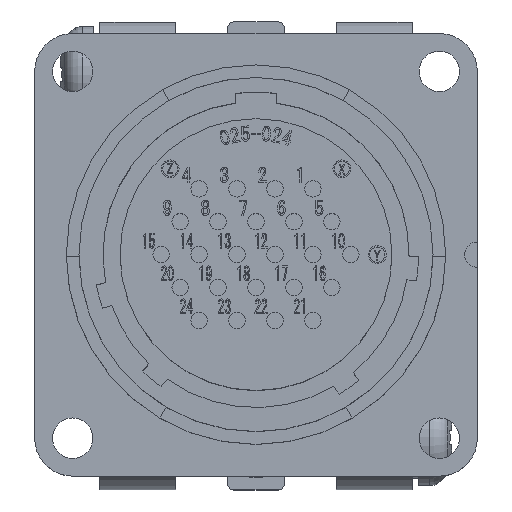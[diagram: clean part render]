
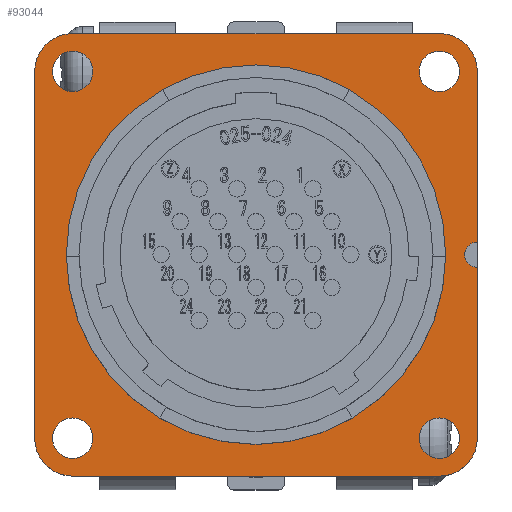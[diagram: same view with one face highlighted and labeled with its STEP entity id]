
A CAD part, top view. The second image highlights one B-rep face of the part: STEP entity #93044.
In plain terms, the highlighted planar face has unit normal (0, 0, 1).
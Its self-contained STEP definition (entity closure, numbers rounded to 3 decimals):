
#1880 = AXIS2_PLACEMENT_3D ( 'NONE', #86083, #49757, #78142 ) ;
#2203 = EDGE_CURVE ( 'NONE', #8988, #8988, #72330, .T. ) ;
#3121 = VERTEX_POINT ( 'NONE', #53885 ) ;
#3390 = FACE_BOUND ( 'NONE', #21571, .T. ) ;
#3608 = CARTESIAN_POINT ( 'NONE',  ( -14.5, -14.5, -10.5 ) ) ;
#4801 = DIRECTION ( 'NONE',  ( -1., 0., 0. ) ) ;
#4927 = VECTOR ( 'NONE', #48506, 1000. ) ;
#5830 = EDGE_LOOP ( 'NONE', ( #72781 ) ) ;
#6068 = LINE ( 'NONE', #47575, #4927 ) ;
#6578 = DIRECTION ( 'NONE',  ( 0., 0., -1. ) ) ;
#7203 = DIRECTION ( 'NONE',  ( -1., 0., 0. ) ) ;
#8360 = DIRECTION ( 'NONE',  ( 0., 0., -1. ) ) ;
#8988 = VERTEX_POINT ( 'NONE', #11586 ) ;
#9372 = ORIENTED_EDGE ( 'NONE', *, *, #41807, .F. ) ;
#10202 = DIRECTION ( 'NONE',  ( 0., -1., 0. ) ) ;
#10491 = CIRCLE ( 'NONE', #43228, 3. ) ;
#10969 = AXIS2_PLACEMENT_3D ( 'NONE', #3608, #24751, #10202 ) ;
#11018 = ORIENTED_EDGE ( 'NONE', *, *, #58328, .T. ) ;
#11586 = CARTESIAN_POINT ( 'NONE',  ( -15., 0., -10.5 ) ) ;
#12129 = DIRECTION ( 'NONE',  ( -1., 0., 0. ) ) ;
#12219 = VERTEX_POINT ( 'NONE', #86877 ) ;
#13868 = CIRCLE ( 'NONE', #18438, 1. ) ;
#14870 = DIRECTION ( 'NONE',  ( 0., 0., 1. ) ) ;
#16818 = EDGE_CURVE ( 'NONE', #41565, #17228, #29871, .T. ) ;
#17228 = VERTEX_POINT ( 'NONE', #54913 ) ;
#18438 = AXIS2_PLACEMENT_3D ( 'NONE', #70722, #14870, #44555 ) ;
#19000 = CARTESIAN_POINT ( 'NONE',  ( 14.5, -14.5, -10.5 ) ) ;
#19147 = DIRECTION ( 'NONE',  ( 0., -1., 0. ) ) ;
#19307 = ORIENTED_EDGE ( 'NONE', *, *, #59739, .T. ) ;
#20061 = VERTEX_POINT ( 'NONE', #82941 ) ;
#20276 = VERTEX_POINT ( 'NONE', #37928 ) ;
#21489 = EDGE_CURVE ( 'NONE', #48937, #12219, #53069, .T. ) ;
#21571 = EDGE_LOOP ( 'NONE', ( #19307 ) ) ;
#23747 = EDGE_LOOP ( 'NONE', ( #49933 ) ) ;
#24751 = DIRECTION ( 'NONE',  ( 0., 0., -1. ) ) ;
#25027 = ORIENTED_EDGE ( 'NONE', *, *, #16818, .T. ) ;
#27236 = CIRCLE ( 'NONE', #36436, 1.6 ) ;
#28119 = ORIENTED_EDGE ( 'NONE', *, *, #21489, .F. ) ;
#29455 = DIRECTION ( 'NONE',  ( 0., -1., 0. ) ) ;
#29789 = ORIENTED_EDGE ( 'NONE', *, *, #77431, .T. ) ;
#29871 = CIRCLE ( 'NONE', #35959, 3. ) ;
#30221 = AXIS2_PLACEMENT_3D ( 'NONE', #51061, #8360, #72192 ) ;
#31318 = CARTESIAN_POINT ( 'NONE',  ( -17.5, -14.5, -10.5 ) ) ;
#31497 = ORIENTED_EDGE ( 'NONE', *, *, #43483, .F. ) ;
#31940 = CIRCLE ( 'NONE', #1880, 1.6 ) ;
#35281 = LINE ( 'NONE', #40476, #87320 ) ;
#35959 = AXIS2_PLACEMENT_3D ( 'NONE', #48994, #54712, #4801 ) ;
#35991 = CARTESIAN_POINT ( 'NONE',  ( -14.5, 14.5, -10.5 ) ) ;
#36435 = CARTESIAN_POINT ( 'NONE',  ( -14.5, -17.5, -10.5 ) ) ;
#36436 = AXIS2_PLACEMENT_3D ( 'NONE', #19000, #40746, #91317 ) ;
#37121 = AXIS2_PLACEMENT_3D ( 'NONE', #35991, #78602, #7203 ) ;
#37331 = LINE ( 'NONE', #58515, #38425 ) ;
#37928 = CARTESIAN_POINT ( 'NONE',  ( -14.5, 17.5, -10.5 ) ) ;
#38335 = ORIENTED_EDGE ( 'NONE', *, *, #92952, .T. ) ;
#38425 = VECTOR ( 'NONE', #65439, 1000. ) ;
#38785 = EDGE_CURVE ( 'NONE', #67036, #17228, #61647, .T. ) ;
#40165 = AXIS2_PLACEMENT_3D ( 'NONE', #42910, #6578, #85908 ) ;
#40179 = CARTESIAN_POINT ( 'NONE',  ( -17.5, 14.5, -10.5 ) ) ;
#40476 = CARTESIAN_POINT ( 'NONE',  ( 0., -17.5, -10.5 ) ) ;
#40746 = DIRECTION ( 'NONE',  ( 0., 0., -1. ) ) ;
#41565 = VERTEX_POINT ( 'NONE', #49341 ) ;
#41807 = EDGE_CURVE ( 'NONE', #12219, #81452, #6068, .T. ) ;
#42812 = CARTESIAN_POINT ( 'NONE',  ( -14.5, -14.5, -10.5 ) ) ;
#42910 = CARTESIAN_POINT ( 'NONE',  ( 14.5, 14.5, -10.5 ) ) ;
#43228 = AXIS2_PLACEMENT_3D ( 'NONE', #42812, #93374, #55816 ) ;
#43483 = EDGE_CURVE ( 'NONE', #41565, #55655, #35281, .T. ) ;
#44067 = FACE_BOUND ( 'NONE', #90132, .T. ) ;
#44188 = FACE_OUTER_BOUND ( 'NONE', #67353, .T. ) ;
#44555 = DIRECTION ( 'NONE',  ( 1., 0., 0. ) ) ;
#45406 = CARTESIAN_POINT ( 'NONE',  ( 14.5, 16.1, -10.5 ) ) ;
#46176 = CIRCLE ( 'NONE', #37121, 3. ) ;
#46441 = FACE_BOUND ( 'NONE', #23747, .T. ) ;
#47558 = DIRECTION ( 'NONE',  ( 0., 0., -1. ) ) ;
#47575 = CARTESIAN_POINT ( 'NONE',  ( 17.5, 0., -10.5 ) ) ;
#47862 = CARTESIAN_POINT ( 'NONE',  ( 0., 0., -10.5 ) ) ;
#48506 = DIRECTION ( 'NONE',  ( 0., -1., 0. ) ) ;
#48700 = CIRCLE ( 'NONE', #10969, 1.6 ) ;
#48855 = AXIS2_PLACEMENT_3D ( 'NONE', #47862, #49102, #12129 ) ;
#48926 = EDGE_CURVE ( 'NONE', #81452, #67036, #13868, .T. ) ;
#48937 = VERTEX_POINT ( 'NONE', #62906 ) ;
#48994 = CARTESIAN_POINT ( 'NONE',  ( 14.5, -14.5, -10.5 ) ) ;
#49102 = DIRECTION ( 'NONE',  ( 0., 0., -1. ) ) ;
#49341 = CARTESIAN_POINT ( 'NONE',  ( 14.5, -17.5, -10.5 ) ) ;
#49757 = DIRECTION ( 'NONE',  ( 0., 0., -1. ) ) ;
#49933 = ORIENTED_EDGE ( 'NONE', *, *, #2203, .T. ) ;
#51061 = CARTESIAN_POINT ( 'NONE',  ( 14.5, 14.5, -10.5 ) ) ;
#51475 = VECTOR ( 'NONE', #70570, 1000. ) ;
#51675 = ORIENTED_EDGE ( 'NONE', *, *, #48926, .F. ) ;
#53069 = CIRCLE ( 'NONE', #30221, 3. ) ;
#53885 = CARTESIAN_POINT ( 'NONE',  ( -16.1, 14.5, -10.5 ) ) ;
#54712 = DIRECTION ( 'NONE',  ( 0., 0., 1. ) ) ;
#54913 = CARTESIAN_POINT ( 'NONE',  ( 17.5, -14.5, -10.5 ) ) ;
#55655 = VERTEX_POINT ( 'NONE', #36435 ) ;
#55816 = DIRECTION ( 'NONE',  ( -1., 0., 0. ) ) ;
#56101 = CARTESIAN_POINT ( 'NONE',  ( -17.5, 0., -10.5 ) ) ;
#57299 = EDGE_CURVE ( 'NONE', #61963, #65467, #72879, .T. ) ;
#58328 = EDGE_CURVE ( 'NONE', #20276, #65467, #46176, .T. ) ;
#58515 = CARTESIAN_POINT ( 'NONE',  ( 0., 17.5, -10.5 ) ) ;
#59158 = ORIENTED_EDGE ( 'NONE', *, *, #38785, .F. ) ;
#59739 = EDGE_CURVE ( 'NONE', #61931, #61931, #84435, .T. ) ;
#61647 = LINE ( 'NONE', #85695, #76282 ) ;
#61778 = CARTESIAN_POINT ( 'NONE',  ( -14.5, -16.1, -10.5 ) ) ;
#61931 = VERTEX_POINT ( 'NONE', #45406 ) ;
#61963 = VERTEX_POINT ( 'NONE', #31318 ) ;
#62906 = CARTESIAN_POINT ( 'NONE',  ( 14.5, 17.5, -10.5 ) ) ;
#64315 = EDGE_LOOP ( 'NONE', ( #38335 ) ) ;
#65439 = DIRECTION ( 'NONE',  ( 1., 0., 0. ) ) ;
#65467 = VERTEX_POINT ( 'NONE', #40179 ) ;
#66532 = CARTESIAN_POINT ( 'NONE',  ( 17.5, -1., -10.5 ) ) ;
#66837 = ORIENTED_EDGE ( 'NONE', *, *, #81375, .F. ) ;
#67036 = VERTEX_POINT ( 'NONE', #66532 ) ;
#67353 = EDGE_LOOP ( 'NONE', ( #59158, #51675, #9372, #28119, #66837, #11018, #74041, #29789, #31497, #25027 ) ) ;
#68896 = DIRECTION ( 'NONE',  ( -1., 0., 0. ) ) ;
#68998 = PLANE ( 'NONE',  #92776 ) ;
#70570 = DIRECTION ( 'NONE',  ( 0., 1., 0. ) ) ;
#70722 = CARTESIAN_POINT ( 'NONE',  ( 17.5, 0., -10.5 ) ) ;
#72192 = DIRECTION ( 'NONE',  ( -1., 0., 0. ) ) ;
#72330 = CIRCLE ( 'NONE', #48855, 15. ) ;
#72781 = ORIENTED_EDGE ( 'NONE', *, *, #91659, .T. ) ;
#72879 = LINE ( 'NONE', #56101, #51475 ) ;
#73927 = CARTESIAN_POINT ( 'NONE',  ( 17.5, 1., -10.5 ) ) ;
#74041 = ORIENTED_EDGE ( 'NONE', *, *, #57299, .F. ) ;
#74601 = ORIENTED_EDGE ( 'NONE', *, *, #90144, .T. ) ;
#75389 = VERTEX_POINT ( 'NONE', #61778 ) ;
#76282 = VECTOR ( 'NONE', #29455, 1000. ) ;
#77431 = EDGE_CURVE ( 'NONE', #61963, #55655, #10491, .T. ) ;
#77918 = FACE_BOUND ( 'NONE', #5830, .T. ) ;
#78142 = DIRECTION ( 'NONE',  ( -1., 0., 0. ) ) ;
#78602 = DIRECTION ( 'NONE',  ( 0., 0., 1. ) ) ;
#80215 = FACE_BOUND ( 'NONE', #64315, .T. ) ;
#81375 = EDGE_CURVE ( 'NONE', #20276, #48937, #37331, .T. ) ;
#81452 = VERTEX_POINT ( 'NONE', #73927 ) ;
#82941 = CARTESIAN_POINT ( 'NONE',  ( 16.1, -14.5, -10.5 ) ) ;
#84435 = CIRCLE ( 'NONE', #40165, 1.6 ) ;
#85695 = CARTESIAN_POINT ( 'NONE',  ( 17.5, 0., -10.5 ) ) ;
#85908 = DIRECTION ( 'NONE',  ( 0., 1., 0. ) ) ;
#86083 = CARTESIAN_POINT ( 'NONE',  ( -14.5, 14.5, -10.5 ) ) ;
#86877 = CARTESIAN_POINT ( 'NONE',  ( 17.5, 14.5, -10.5 ) ) ;
#87320 = VECTOR ( 'NONE', #68896, 1000. ) ;
#90132 = EDGE_LOOP ( 'NONE', ( #74601 ) ) ;
#90144 = EDGE_CURVE ( 'NONE', #3121, #3121, #31940, .T. ) ;
#90828 = CARTESIAN_POINT ( 'NONE',  ( 0., 17.5, -10.5 ) ) ;
#91317 = DIRECTION ( 'NONE',  ( 1., 0., 0. ) ) ;
#91659 = EDGE_CURVE ( 'NONE', #75389, #75389, #48700, .T. ) ;
#92776 = AXIS2_PLACEMENT_3D ( 'NONE', #90828, #47558, #19147 ) ;
#92952 = EDGE_CURVE ( 'NONE', #20061, #20061, #27236, .T. ) ;
#93044 = ADVANCED_FACE ( 'NONE', ( #44188, #44067, #46441, #3390, #80215, #77918 ), #68998, .F. ) ;
#93374 = DIRECTION ( 'NONE',  ( 0., 0., 1. ) ) ;
